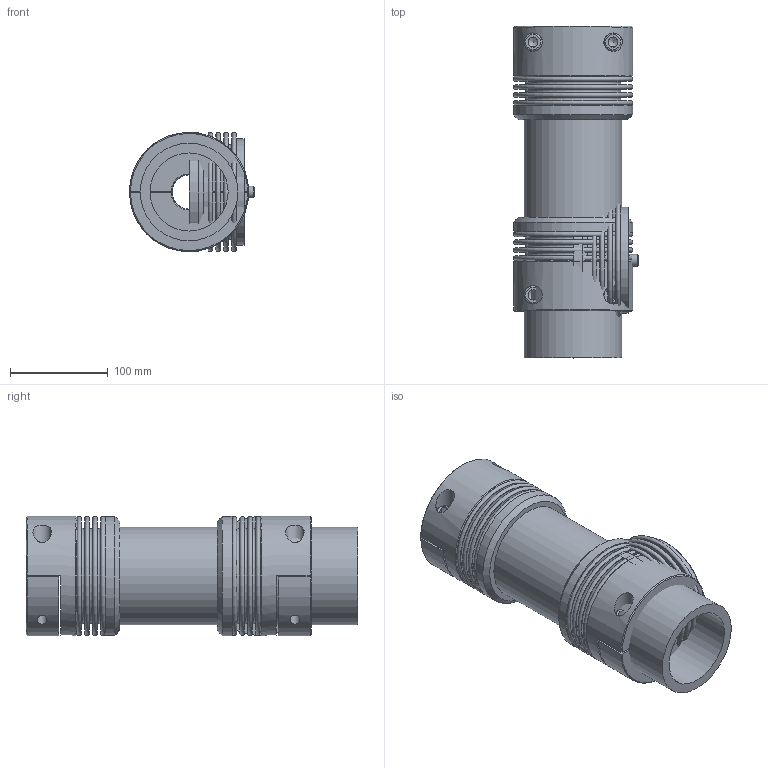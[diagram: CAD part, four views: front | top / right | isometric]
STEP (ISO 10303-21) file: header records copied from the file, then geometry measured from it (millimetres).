
FILE_DESCRIPTION( ( 'Unknown' ), '1' );
FILE_NAME( 'K:/Konstruktion/DRB/DRB500.stp', 'Unknown', ( 'Unknown' ), ( 'Unknown' ), 'XStep 1.0', 'Unknown', ' ' );
FILE_SCHEMA( ( 'automotive_design' ) );
Length unit declared in the file: millimetre
Products named in the file (7): Assem1; KN4H-500; BK500_Standard_0; Socket Head Cap Screw_DIN_DIN 912 M12 x 55 --- 55N_1; R100; Aufnahme R100-1
Bounding box: 128 x 339.9 x 122 mm (x, y, z)
Volume: 2620399.1 mm3; surface area: 688542.2 mm2
Topology: 19 solids, 19 shells, 329 faces, 642 edges, 410 vertices
Faces by surface type: plane 175, cylinder 65, torus 58, cone 31
Full cylindrical faces by diameter (mm): 10.106 x6, 12 x5, 12.5 x6, 18 x5, 19 x6, 35 x3, 70 x3, 80 x5, 100 x2, 107.7 x6, 108.9 x6, 122 x6
Entity records: 2916 total; most frequent: CARTESIAN_POINT 732, DIRECTION 434, ORIENTED_EDGE 276, AXIS2_PLACEMENT_3D 197, EDGE_LOOP 174, EDGE_CURVE 138, FACE_OUTER_BOUND 134, VERTEX_POINT 115
